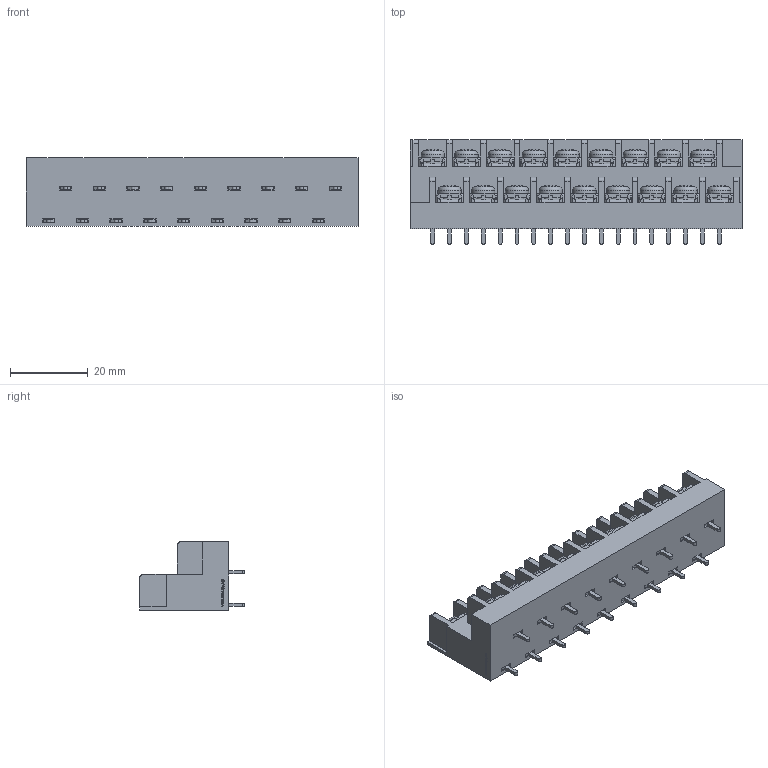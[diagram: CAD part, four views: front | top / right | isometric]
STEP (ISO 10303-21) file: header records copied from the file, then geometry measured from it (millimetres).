
FILE_DESCRIPTION(/* description */ ('Alibre Inc.'),/* implementation_level */ '2;1');
FILE_NAME(/* name */ 'export-B848383A-A0BA-43E9-BD18-162F80D64C42',/* time_stamp */ '2021-02-08T17:07:12+09:00',/* author */ (''),/* organization */ (''),/* preprocessor_version */ 'ST-DEVELOPER v17',/* originating_system */ 'Alibre',/* authorisation */ '');
FILE_SCHEMA (('CONFIG_CONTROL_DESIGN'));
Length unit declared in the file: millimetre
Bounding box: 85.65 x 27 x 17.7 mm (x, y, z)
Volume: 22093.3 mm3; surface area: 14926 mm2
Topology: 1 solids, 35 shells, 2898 faces, 7218 edges, 4518 vertices
Faces by surface type: plane 2082, bspline 418, cylinder 164, extrusion 72, cone 72, torus 54, sphere 36
Full cylindrical faces by diameter (mm): 3.5 x36, 4.5 x18, 5 x18, 6 x18
Entity records: 90553 total; most frequent: CARTESIAN_POINT 29478, ORIENTED_EDGE 14004, DIRECTION 9042, EDGE_CURVE 7002, VECTOR 4924, LINE 4888, VERTEX_POINT 4446, EDGE_LOOP 3214
